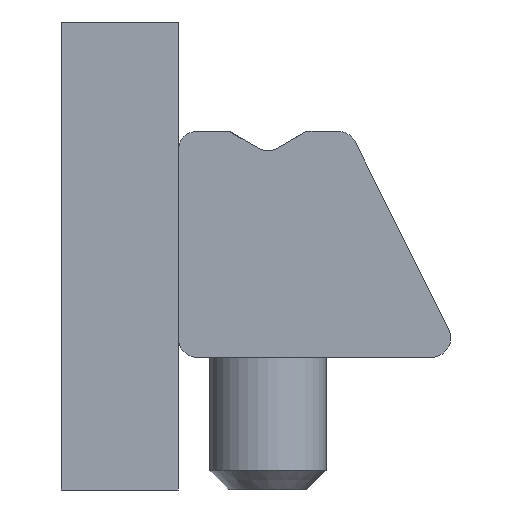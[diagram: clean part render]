
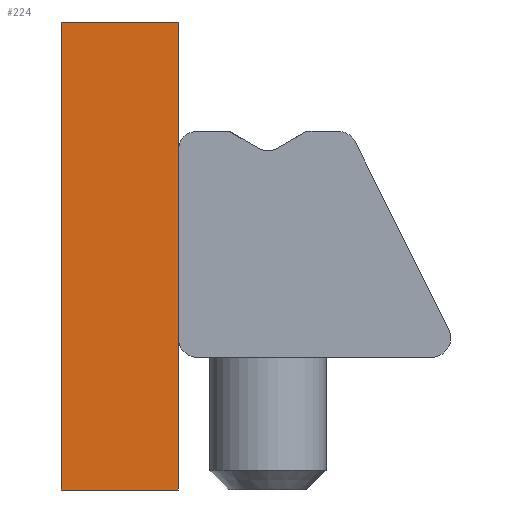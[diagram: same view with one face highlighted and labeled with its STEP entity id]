
A CAD part, left-side view. The second image highlights one B-rep face of the part: STEP entity #224.
In plain terms, the highlighted planar face has unit normal (-1, 0, 0) as drawn and (0, 1, 0) by its records, which use the part's own axes.
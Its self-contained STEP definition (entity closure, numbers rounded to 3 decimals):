
#224=ADVANCED_FACE('',(#403),#404,.F.);
#403=FACE_OUTER_BOUND('',#558,.T.);
#404=PLANE('',#559);
#558=EDGE_LOOP('',(#848,#849,#850,#851));
#559=AXIS2_PLACEMENT_3D('',#852,#853,#854);
#848=ORIENTED_EDGE('',*,*,#1052,.T.);
#849=ORIENTED_EDGE('',*,*,#1067,.F.);
#850=ORIENTED_EDGE('',*,*,#1068,.F.);
#851=ORIENTED_EDGE('',*,*,#1042,.T.);
#852=CARTESIAN_POINT('',(12.0,119.0,3.0));
#853=DIRECTION('',(0.0,-1.0,0.0));
#854=DIRECTION('',(0.0,0.0,-1.0));
#1042=EDGE_CURVE('',#1236,#1234,#1237,.T.);
#1052=EDGE_CURVE('',#1234,#1248,#1251,.T.);
#1067=EDGE_CURVE('',#1267,#1248,#1268,.T.);
#1068=EDGE_CURVE('',#1236,#1267,#1269,.T.);
#1234=VERTEX_POINT('',#1499);
#1236=VERTEX_POINT('',#1502);
#1237=LINE('',#1503,#1504);
#1248=VERTEX_POINT('',#1521);
#1251=LINE('',#1525,#1526);
#1267=VERTEX_POINT('',#1545);
#1268=LINE('',#1546,#1547);
#1269=LINE('',#1548,#1549);
#1499=CARTESIAN_POINT('',(12.0,119.0,0.0));
#1502=CARTESIAN_POINT('',(12.0,119.0,3.0));
#1503=CARTESIAN_POINT('',(12.0,119.0,3.0));
#1504=VECTOR('',#1687,1.0);
#1521=CARTESIAN_POINT('',(0.,119.0,0.0));
#1525=CARTESIAN_POINT('',(12.0,119.0,0.0));
#1526=VECTOR('',#1695,1.0);
#1545=CARTESIAN_POINT('',(0.,119.0,3.0));
#1546=CARTESIAN_POINT('',(0.,119.0,3.0));
#1547=VECTOR('',#1714,1.0);
#1548=CARTESIAN_POINT('',(12.0,119.0,3.0));
#1549=VECTOR('',#1715,1.0);
#1687=DIRECTION('',(0.0,0.0,-1.0));
#1695=DIRECTION('',(-1.0,0.0,0.0));
#1714=DIRECTION('',(0.0,0.0,-1.0));
#1715=DIRECTION('',(-1.0,0.0,0.0));
